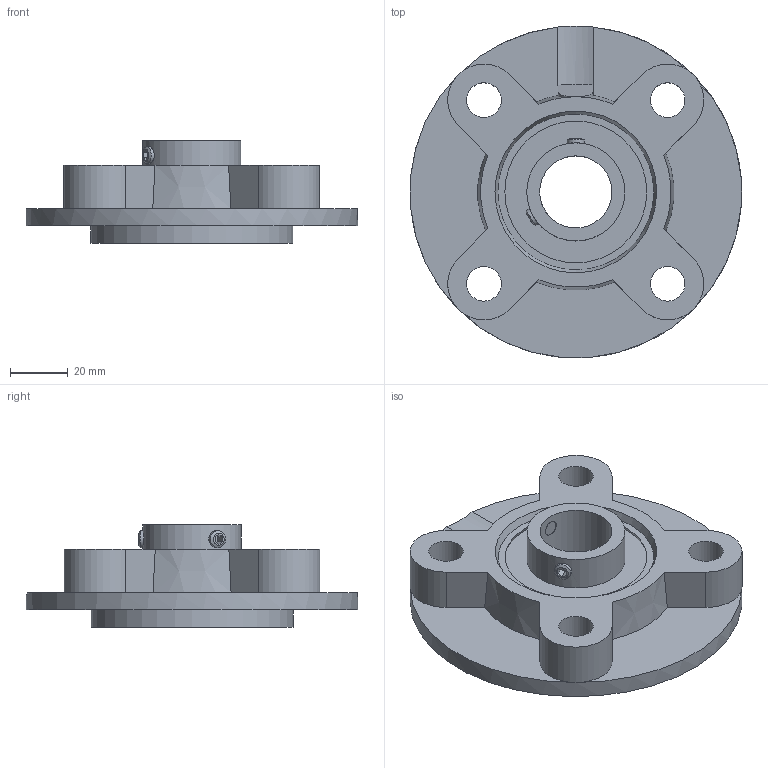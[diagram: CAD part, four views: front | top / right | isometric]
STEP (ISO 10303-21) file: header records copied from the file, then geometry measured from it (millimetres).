
FILE_DESCRIPTION((''),'2;1');
FILE_NAME('\\Ts-tgl068\j-cad-d-base\00.3DCADデータ作成フォルダ\02.フランジ形\BFC200\BFC205.stp','2014-05-08T08:23:18',('btec_1106_2'),(''),'Autodesk Inventor 2012','Autodesk Inventor 2012','');
FILE_SCHEMA(('AUTOMOTIVE_DESIGN { 1 0 10303 214 1 1 1 1 }'));
Length unit declared in the file: millimetre
Products named in the file (3): BFC200; FC205G00; シリーズB [番手=5 ul]
Assembly tree (2 placements, depth 2):
  BFC200
    FC205G00
    シリーズB [番手=5 ul]
Bounding box: 114.87 x 114.97 x 35.5 mm (x, y, z)
Volume: 129268.5 mm3; surface area: 41530.7 mm2
Topology: 2 solids, 2 shells, 74 faces, 181 edges, 119 vertices
Faces by surface type: plane 42, cylinder 19, cone 9, sphere 2, bspline 2
Full cylindrical faces by diameter (mm): 6 x2, 12 x4, 25 x1, 34 x1, 70 x1, 115 x1
Entity records: 2273 total; most frequent: CARTESIAN_POINT 564, DIRECTION 346, ORIENTED_EDGE 306, EDGE_CURVE 153, AXIS2_PLACEMENT_3D 138, EDGE_LOOP 112, VERTEX_POINT 109, FACE_OUTER_BOUND 74
